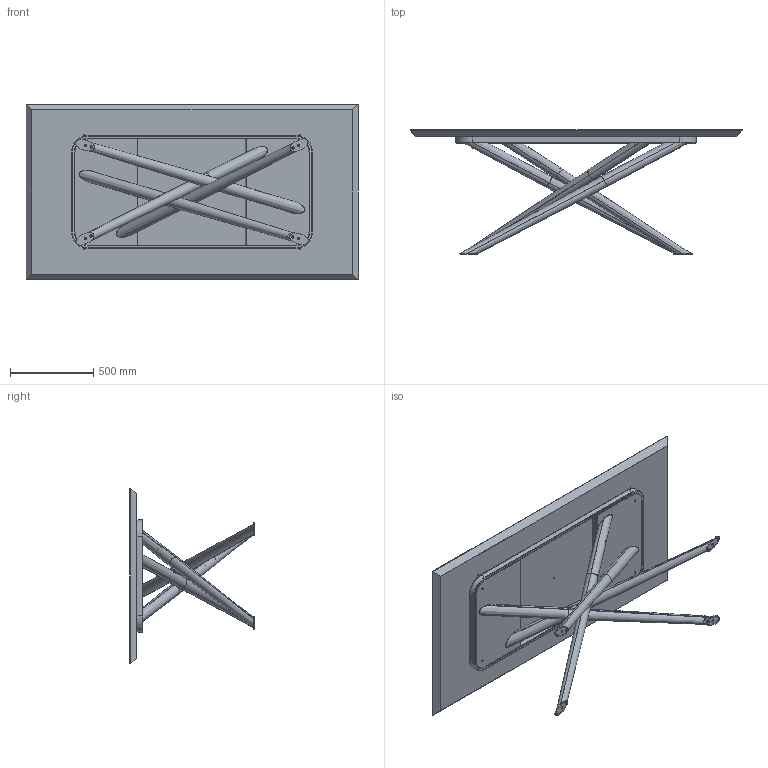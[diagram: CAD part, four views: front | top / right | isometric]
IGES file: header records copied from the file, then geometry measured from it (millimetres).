
Start section: SolidWorks IGES file using analytic representation for surfaces
Global section: file name: Y:\eforma\TECNICO\SOLIDWORKS\E-FORMA\1-TAVOLI\BALY\02 parts\BA41W.IGS; native system: SolidWorks 2022; preprocessor: SolidWorks 2022; author: eforma.tech; date: 240808.075807; units: millimetre
Bounding box: 2000 x 747 x 1060 mm (x, y, z)
Volume: 82656134.5 mm3; surface area: 8581210.2 mm2
Topology: 27 solids, 27 shells, 680 faces, 1430 edges, 783 vertices
Faces by surface type: revolution 368, plane 294, bspline 18
